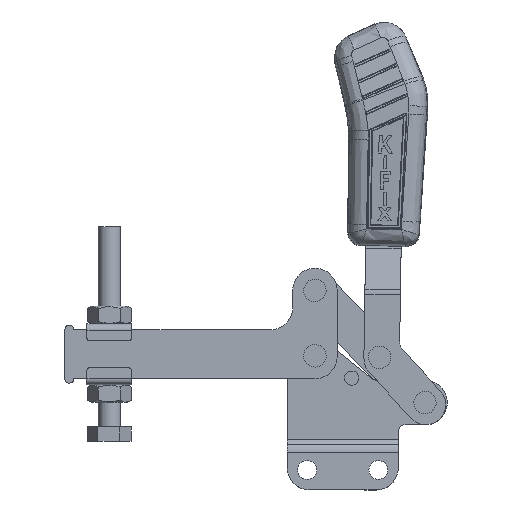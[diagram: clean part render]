
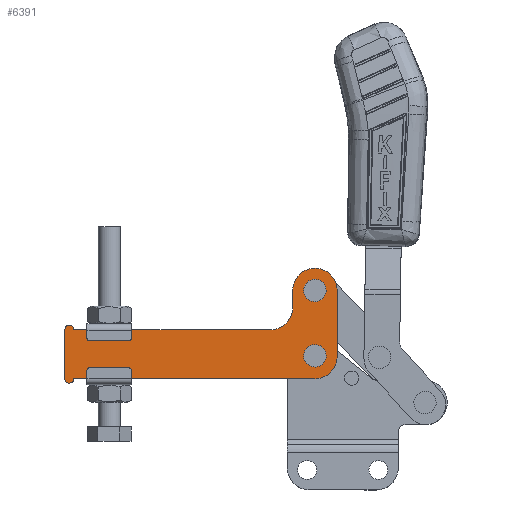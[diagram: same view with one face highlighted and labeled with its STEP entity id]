
A CAD part, top view. The second image highlights one B-rep face of the part: STEP entity #6391.
In plain terms, the highlighted planar face has unit normal (0, 0, 1).
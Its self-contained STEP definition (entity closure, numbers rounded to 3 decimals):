
#149 = FACE_BOUND ( 'NONE', #14312, .T. ) ;
#375 = VERTEX_POINT ( 'NONE', #15273 ) ;
#392 = CARTESIAN_POINT ( 'NONE',  ( 70., -0.7, 0. ) ) ;
#521 = VERTEX_POINT ( 'NONE', #9061 ) ;
#697 = CARTESIAN_POINT ( 'NONE',  ( -40.5, 11., 0. ) ) ;
#1001 = CARTESIAN_POINT ( 'NONE',  ( -40.5, -11., 0. ) ) ;
#1041 = CARTESIAN_POINT ( 'NONE',  ( 60., 28.7, 0. ) ) ;
#1448 = ORIENTED_EDGE ( 'NONE', *, *, #10135, .T. ) ;
#1598 = EDGE_CURVE ( 'NONE', #5008, #7115, #16898, .T. ) ;
#1784 = PLANE ( 'NONE',  #13914 ) ;
#2060 = VERTEX_POINT ( 'NONE', #19823 ) ;
#2103 = ORIENTED_EDGE ( 'NONE', *, *, #5611, .T. ) ;
#2302 = DIRECTION ( 'NONE',  ( 1., 0., 0. ) ) ;
#2453 = CIRCLE ( 'NONE', #16140, 4. ) ;
#2599 = DIRECTION ( 'NONE',  ( -1., 0., 0. ) ) ;
#2756 = CARTESIAN_POINT ( 'NONE',  ( -38.5, 11., 0. ) ) ;
#2769 = ORIENTED_EDGE ( 'NONE', *, *, #16910, .F. ) ;
#2897 = DIRECTION ( 'NONE',  ( 1., 0., 0. ) ) ;
#3171 = CIRCLE ( 'NONE', #16301, 10. ) ;
#3797 = VECTOR ( 'NONE', #16277, 1000. ) ;
#3918 = ORIENTED_EDGE ( 'NONE', *, *, #12799, .T. ) ;
#3996 = CARTESIAN_POINT ( 'NONE',  ( 70., 28.7, 0. ) ) ;
#4111 = CARTESIAN_POINT ( 'NONE',  ( 60., 28.7, 0. ) ) ;
#4247 = EDGE_CURVE ( 'NONE', #6805, #15379, #6487, .T. ) ;
#4268 = CIRCLE ( 'NONE', #16969, 10. ) ;
#4351 = CARTESIAN_POINT ( 'NONE',  ( 70., -1., 0. ) ) ;
#4387 = DIRECTION ( 'NONE',  ( 0., 1., 0. ) ) ;
#4394 = AXIS2_PLACEMENT_3D ( 'NONE', #19702, #8354, #21614 ) ;
#4447 = ORIENTED_EDGE ( 'NONE', *, *, #5156, .F. ) ;
#4481 = CARTESIAN_POINT ( 'NONE',  ( 66., -0.7, 0. ) ) ;
#4711 = CARTESIAN_POINT ( 'NONE',  ( 50., 11., 0. ) ) ;
#4993 = CARTESIAN_POINT ( 'NONE',  ( 74., -0.7, 0. ) ) ;
#5008 = VERTEX_POINT ( 'NONE', #4111 ) ;
#5094 = EDGE_CURVE ( 'NONE', #18589, #16736, #8517, .T. ) ;
#5156 = EDGE_CURVE ( 'NONE', #15379, #6805, #22481, .T. ) ;
#5611 = EDGE_CURVE ( 'NONE', #22141, #521, #16476, .T. ) ;
#5931 = DIRECTION ( 'NONE',  ( 1., 0., 0. ) ) ;
#6034 = ORIENTED_EDGE ( 'NONE', *, *, #22422, .T. ) ;
#6287 = DIRECTION ( 'NONE',  ( 1., 0., 0. ) ) ;
#6391 = ADVANCED_FACE ( 'NONE', ( #149, #15262, #14082 ), #1784, .F. ) ;
#6487 = CIRCLE ( 'NONE', #24101, 4. ) ;
#6640 = DIRECTION ( 'NONE',  ( -1., 0., 0. ) ) ;
#6708 = DIRECTION ( 'NONE',  ( 0., 0., 1. ) ) ;
#6800 = CARTESIAN_POINT ( 'NONE',  ( 4., -11., 0. ) ) ;
#6805 = VERTEX_POINT ( 'NONE', #4993 ) ;
#6991 = CARTESIAN_POINT ( 'NONE',  ( 66., 28.7, 0. ) ) ;
#7115 = VERTEX_POINT ( 'NONE', #10485 ) ;
#7373 = CARTESIAN_POINT ( 'NONE',  ( 70., 28.7, 0. ) ) ;
#7742 = AXIS2_PLACEMENT_3D ( 'NONE', #1001, #14235, #2897 ) ;
#7999 = VECTOR ( 'NONE', #6640, 1000. ) ;
#8214 = AXIS2_PLACEMENT_3D ( 'NONE', #18053, #6708, #19935 ) ;
#8354 = DIRECTION ( 'NONE',  ( 0., 0., 1. ) ) ;
#8517 = CIRCLE ( 'NONE', #4394, 4. ) ;
#9061 = CARTESIAN_POINT ( 'NONE',  ( -38.5, -11., 0. ) ) ;
#9221 = VERTEX_POINT ( 'NONE', #15003 ) ;
#9258 = DIRECTION ( 'NONE',  ( 1., 0., 0. ) ) ;
#9452 = VERTEX_POINT ( 'NONE', #2756 ) ;
#9502 = VERTEX_POINT ( 'NONE', #19901 ) ;
#9513 = EDGE_LOOP ( 'NONE', ( #23443, #2769 ) ) ;
#9643 = ORIENTED_EDGE ( 'NONE', *, *, #17166, .T. ) ;
#9903 = VECTOR ( 'NONE', #17159, 1000. ) ;
#9975 = CIRCLE ( 'NONE', #20454, 2. ) ;
#10010 = VECTOR ( 'NONE', #4387, 1000. ) ;
#10135 = EDGE_CURVE ( 'NONE', #9502, #9452, #18084, .T. ) ;
#10359 = DIRECTION ( 'NONE',  ( 0., 0., -1. ) ) ;
#10485 = CARTESIAN_POINT ( 'NONE',  ( 60., 21., 0. ) ) ;
#10832 = CARTESIAN_POINT ( 'NONE',  ( -42.5, -11., 0. ) ) ;
#11286 = DIRECTION ( 'NONE',  ( -1., 0., 0. ) ) ;
#11408 = ORIENTED_EDGE ( 'NONE', *, *, #12386, .T. ) ;
#11473 = ORIENTED_EDGE ( 'NONE', *, *, #1598, .T. ) ;
#12069 = EDGE_CURVE ( 'NONE', #375, #5008, #3171, .T. ) ;
#12130 = ORIENTED_EDGE ( 'NONE', *, *, #4247, .F. ) ;
#12155 = CARTESIAN_POINT ( 'NONE',  ( -42.5, 11., 0. ) ) ;
#12386 = EDGE_CURVE ( 'NONE', #521, #2060, #19530, .T. ) ;
#12799 = EDGE_CURVE ( 'NONE', #9452, #15422, #9975, .T. ) ;
#13059 = EDGE_LOOP ( 'NONE', ( #3918, #19612, #2103, #11408, #23328, #6034, #20334, #11473, #9643, #1448 ) ) ;
#13654 = DIRECTION ( 'NONE',  ( 0., 0., 1. ) ) ;
#13881 = CARTESIAN_POINT ( 'NONE',  ( 74., 28.7, 0. ) ) ;
#13914 = AXIS2_PLACEMENT_3D ( 'NONE', #18861, #22716, #11286 ) ;
#13938 = DIRECTION ( 'NONE',  ( 0., 0., 1. ) ) ;
#14082 = FACE_OUTER_BOUND ( 'NONE', #13059, .T. ) ;
#14235 = DIRECTION ( 'NONE',  ( 0., 0., 1. ) ) ;
#14312 = EDGE_LOOP ( 'NONE', ( #12130, #4447 ) ) ;
#15003 = CARTESIAN_POINT ( 'NONE',  ( 80., -1., 0. ) ) ;
#15086 = VECTOR ( 'NONE', #21777, 1000. ) ;
#15262 = FACE_BOUND ( 'NONE', #9513, .T. ) ;
#15273 = CARTESIAN_POINT ( 'NONE',  ( 80., 28.7, 0. ) ) ;
#15379 = VERTEX_POINT ( 'NONE', #4481 ) ;
#15422 = VERTEX_POINT ( 'NONE', #12155 ) ;
#15718 = CARTESIAN_POINT ( 'NONE',  ( 80., -1., 0. ) ) ;
#15993 = AXIS2_PLACEMENT_3D ( 'NONE', #4351, #17626, #6287 ) ;
#16140 = AXIS2_PLACEMENT_3D ( 'NONE', #3996, #17271, #5931 ) ;
#16277 = DIRECTION ( 'NONE',  ( 1., 0., 0. ) ) ;
#16301 = AXIS2_PLACEMENT_3D ( 'NONE', #7373, #20630, #9258 ) ;
#16476 = CIRCLE ( 'NONE', #7742, 2. ) ;
#16736 = VERTEX_POINT ( 'NONE', #6991 ) ;
#16898 = LINE ( 'NONE', #1041, #15086 ) ;
#16910 = EDGE_CURVE ( 'NONE', #16736, #18589, #2453, .T. ) ;
#16969 = AXIS2_PLACEMENT_3D ( 'NONE', #21736, #10359, #23665 ) ;
#17159 = DIRECTION ( 'NONE',  ( 0., -1., 0. ) ) ;
#17166 = EDGE_CURVE ( 'NONE', #7115, #9502, #4268, .T. ) ;
#17271 = DIRECTION ( 'NONE',  ( 0., 0., 1. ) ) ;
#17626 = DIRECTION ( 'NONE',  ( 0., 0., 1. ) ) ;
#17998 = EDGE_CURVE ( 'NONE', #2060, #9221, #24444, .T. ) ;
#18053 = CARTESIAN_POINT ( 'NONE',  ( 70., -0.7, 0. ) ) ;
#18084 = LINE ( 'NONE', #4711, #7999 ) ;
#18589 = VERTEX_POINT ( 'NONE', #13881 ) ;
#18861 = CARTESIAN_POINT ( 'NONE',  ( 2., 11., 0. ) ) ;
#19078 = CARTESIAN_POINT ( 'NONE',  ( -42.5, 11., 0. ) ) ;
#19530 = LINE ( 'NONE', #6800, #3797 ) ;
#19612 = ORIENTED_EDGE ( 'NONE', *, *, #23429, .T. ) ;
#19702 = CARTESIAN_POINT ( 'NONE',  ( 70., 28.7, 0. ) ) ;
#19823 = CARTESIAN_POINT ( 'NONE',  ( 70., -11., 0. ) ) ;
#19901 = CARTESIAN_POINT ( 'NONE',  ( 50., 11., 0. ) ) ;
#19935 = DIRECTION ( 'NONE',  ( 1., 0., 0. ) ) ;
#20334 = ORIENTED_EDGE ( 'NONE', *, *, #12069, .T. ) ;
#20454 = AXIS2_PLACEMENT_3D ( 'NONE', #697, #13938, #2599 ) ;
#20630 = DIRECTION ( 'NONE',  ( 0., 0., 1. ) ) ;
#21614 = DIRECTION ( 'NONE',  ( 1., 0., 0. ) ) ;
#21736 = CARTESIAN_POINT ( 'NONE',  ( 50., 21., 0. ) ) ;
#21777 = DIRECTION ( 'NONE',  ( 0., -1., 0. ) ) ;
#22141 = VERTEX_POINT ( 'NONE', #10832 ) ;
#22422 = EDGE_CURVE ( 'NONE', #9221, #375, #24594, .T. ) ;
#22481 = CIRCLE ( 'NONE', #8214, 4. ) ;
#22716 = DIRECTION ( 'NONE',  ( 0., 0., -1. ) ) ;
#23328 = ORIENTED_EDGE ( 'NONE', *, *, #17998, .T. ) ;
#23429 = EDGE_CURVE ( 'NONE', #15422, #22141, #24484, .T. ) ;
#23443 = ORIENTED_EDGE ( 'NONE', *, *, #5094, .F. ) ;
#23665 = DIRECTION ( 'NONE',  ( -1., 0., 0. ) ) ;
#24101 = AXIS2_PLACEMENT_3D ( 'NONE', #392, #13654, #2302 ) ;
#24444 = CIRCLE ( 'NONE', #15993, 10. ) ;
#24484 = LINE ( 'NONE', #19078, #9903 ) ;
#24594 = LINE ( 'NONE', #15718, #10010 ) ;
